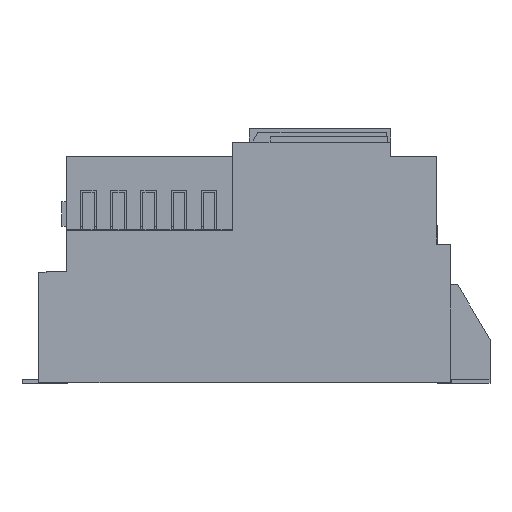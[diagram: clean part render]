
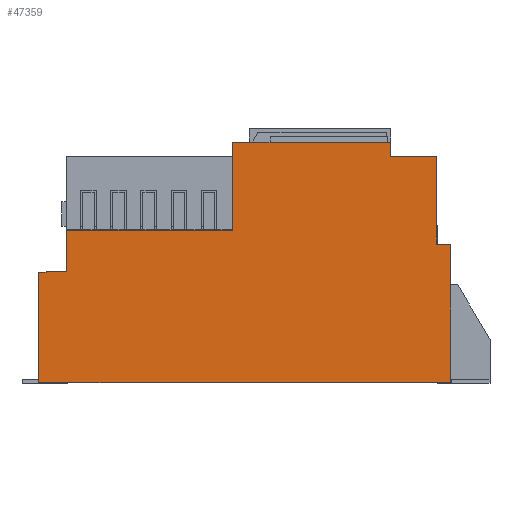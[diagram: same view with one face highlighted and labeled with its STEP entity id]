
A CAD part, left-side view. The second image highlights one B-rep face of the part: STEP entity #47359.
In plain terms, the highlighted planar face has unit normal (-1, 0, 0).
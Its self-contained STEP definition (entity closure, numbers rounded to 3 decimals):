
#8037=DIRECTION('',(0.,1.,0.));
#8038=VECTOR('',#8037,33.98);
#8039=CARTESIAN_POINT('',(0.,38.7,165.7));
#8040=LINE('',#8039,#8038);
#8044=DIRECTION('',(0.,0.,1.));
#8045=VECTOR('',#8044,64.101);
#8046=CARTESIAN_POINT('',(0.,38.7,101.599));
#8047=LINE('',#8046,#8045);
#8051=DIRECTION('',(0.,0.999,0.035));
#8052=VECTOR('',#8051,10.006);
#8053=CARTESIAN_POINT('',(0.,28.7,101.25));
#8054=LINE('',#8053,#8052);
#8058=DIRECTION('',(0.,0.,1.));
#8059=VECTOR('',#8058,100.55);
#8060=CARTESIAN_POINT('',(0.,28.7,0.7));
#8061=LINE('',#8060,#8059);
#8065=DIRECTION('',(0.,-1.,0.));
#8066=VECTOR('',#8065,300.);
#8067=CARTESIAN_POINT('',(0.,328.7,0.7));
#8068=LINE('',#8067,#8066);
#8072=DIRECTION('',(0.,0.,-1.));
#8073=VECTOR('',#8072,80.35);
#8074=CARTESIAN_POINT('',(0.,328.7,81.05));
#8075=LINE('',#8074,#8073);
#8079=DIRECTION('',(0.,0.999,-0.035));
#8080=VECTOR('',#8079,20.018);
#8081=CARTESIAN_POINT('',(0.,308.694,81.749));
#8082=LINE('',#8081,#8080);
#8086=DIRECTION('',(0.,0.,-1.));
#8087=VECTOR('',#8086,29.951);
#8088=CARTESIAN_POINT('',(0.,308.694,111.7));
#8089=LINE('',#8088,#8087);
#8093=DIRECTION('',(0.,-1.,0.));
#8094=VECTOR('',#8093,121.194);
#8095=CARTESIAN_POINT('',(0.,308.694,111.7));
#8096=LINE('',#8095,#8094);
#8100=DIRECTION('',(0.,0.018,-1.));
#8101=VECTOR('',#8100,10.002);
#8102=CARTESIAN_POINT('',(0.,187.319,175.7));
#8103=LINE('',#8102,#8101);
#8107=DIRECTION('',(0.,0.,-1.));
#8108=VECTOR('',#8107,10.);
#8109=CARTESIAN_POINT('',(0.,72.68,175.7));
#8110=LINE('',#8109,#8108);
#8688=DIRECTION('',(0.,1.,0.));
#8689=VECTOR('',#8688,114.639);
#8690=CARTESIAN_POINT('',(0.,72.68,175.7));
#8691=LINE('',#8690,#8689);
#11384=DIRECTION('',(0.,0.,-1.));
#11385=VECTOR('',#11384,54.);
#11386=CARTESIAN_POINT('',(0.,187.497,165.7));
#11387=LINE('',#11386,#11385);
#34959=CARTESIAN_POINT('',(0.,328.7,81.05));
#34960=CARTESIAN_POINT('',(0.,328.7,0.7));
#34961=VERTEX_POINT('',#34959);
#34962=VERTEX_POINT('',#34960);
#34963=CARTESIAN_POINT('',(0.,28.7,0.7));
#34964=VERTEX_POINT('',#34963);
#34965=CARTESIAN_POINT('',(0.,28.7,101.25));
#34966=VERTEX_POINT('',#34965);
#34967=CARTESIAN_POINT('',(0.,38.7,101.599));
#34968=VERTEX_POINT('',#34967);
#34969=CARTESIAN_POINT('',(0.,308.694,81.749));
#34970=VERTEX_POINT('',#34969);
#35003=CARTESIAN_POINT('',(0.,187.497,165.7));
#35005=VERTEX_POINT('',#35003);
#35011=CARTESIAN_POINT('',(0.,187.319,175.7));
#35012=VERTEX_POINT('',#35011);
#35015=CARTESIAN_POINT('',(0.,308.694,111.7));
#35016=CARTESIAN_POINT('',(0.,187.5,111.7));
#35017=VERTEX_POINT('',#35015);
#35018=VERTEX_POINT('',#35016);
#35021=CARTESIAN_POINT('',(0.,38.7,165.7));
#35022=CARTESIAN_POINT('',(0.,72.68,165.7));
#35023=VERTEX_POINT('',#35021);
#35024=VERTEX_POINT('',#35022);
#35089=CARTESIAN_POINT('',(0.,72.68,175.7));
#35090=VERTEX_POINT('',#35089);
#47332=CARTESIAN_POINT('',(0.,0.,0.));
#47333=DIRECTION('',(-1.,0.,0.));
#47334=DIRECTION('',(0.,0.,1.));
#47335=AXIS2_PLACEMENT_3D('',#47332,#47333,#47334);
#47336=PLANE('',#47335);
#47338=ORIENTED_EDGE('',*,*,#47337,.F.);
#47339=ORIENTED_EDGE('',*,*,#42932,.F.);
#47341=ORIENTED_EDGE('',*,*,#47340,.F.);
#47342=ORIENTED_EDGE('',*,*,#43650,.F.);
#47343=ORIENTED_EDGE('',*,*,#43925,.F.);
#47344=ORIENTED_EDGE('',*,*,#45348,.F.);
#47345=ORIENTED_EDGE('',*,*,#45286,.F.);
#47346=ORIENTED_EDGE('',*,*,#44535,.F.);
#47348=ORIENTED_EDGE('',*,*,#47347,.T.);
#47350=ORIENTED_EDGE('',*,*,#47349,.F.);
#47352=ORIENTED_EDGE('',*,*,#47351,.F.);
#47354=ORIENTED_EDGE('',*,*,#47353,.F.);
#47356=ORIENTED_EDGE('',*,*,#47355,.T.);
#47357=EDGE_LOOP('',(#47338,#47339,#47341,#47342,#47343,#47344,#47345,#47346,
#47348,#47350,#47352,#47354,#47356));
#47358=FACE_OUTER_BOUND('',#47357,.F.);
#42932=EDGE_CURVE('',#34968,#35023,#8047,.T.);
#43650=EDGE_CURVE('',#34964,#34966,#8061,.T.);
#43925=EDGE_CURVE('',#34962,#34964,#8068,.T.);
#44535=EDGE_CURVE('',#35017,#34970,#8089,.T.);
#45286=EDGE_CURVE('',#34970,#34961,#8082,.T.);
#45348=EDGE_CURVE('',#34961,#34962,#8075,.T.);
#47337=EDGE_CURVE('',#35023,#35024,#8040,.T.);
#47340=EDGE_CURVE('',#34966,#34968,#8054,.T.);
#47347=EDGE_CURVE('',#35017,#35018,#8096,.T.);
#47349=EDGE_CURVE('',#35005,#35018,#11387,.T.);
#47351=EDGE_CURVE('',#35012,#35005,#8103,.T.);
#47353=EDGE_CURVE('',#35090,#35012,#8691,.T.);
#47355=EDGE_CURVE('',#35090,#35024,#8110,.T.);
#47359=ADVANCED_FACE('',(#47358),#47336,.T.);
